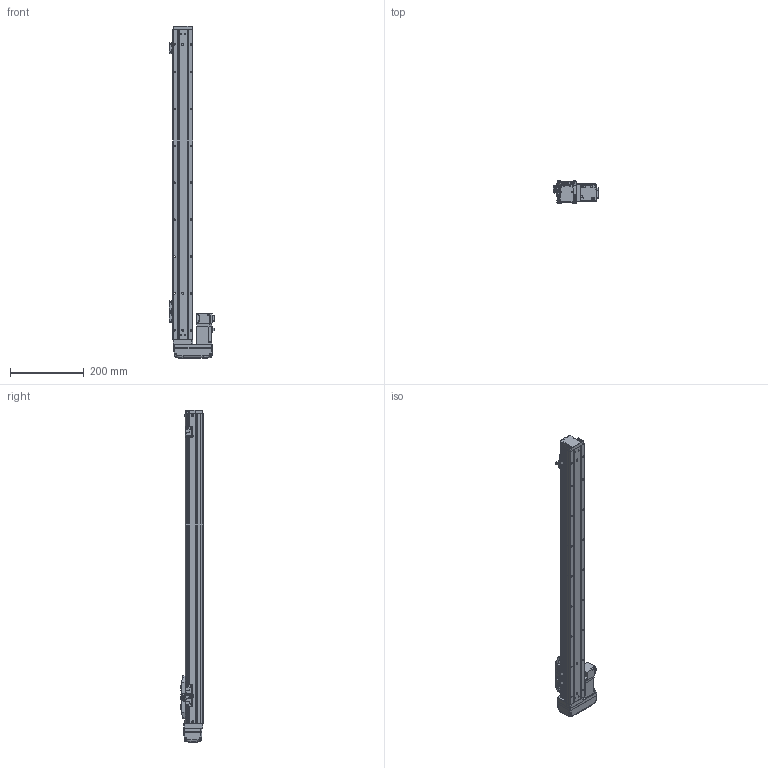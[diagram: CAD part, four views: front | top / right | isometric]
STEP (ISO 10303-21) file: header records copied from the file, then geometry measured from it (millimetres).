
FILE_DESCRIPTION (( 'STEP AP203' ), '1' );
FILE_NAME ('GTH5-700-BR-M10-C4.step', '2022-09-23T00:52:01', ( '微软用户' ), ( '微软中国' ), 'SwSTEP 2.0', 'SolidWorks 2020', '' );
FILE_SCHEMA (( 'CONFIG_CONTROL_DESIGN' ));
Length unit declared in the file: millimetre
Products named in the file (19): GTH50-003; GTH50-028; GTH50-006; GTH50-013; GTH50-022-1; GTH50-004; GTH50-023; HG-KR13; GBT 70.3-M3℅6; GBT 70.1-M3℅6; GTH50-027-1_BTHA50-027-2; BTH-M3X5X6; GBT96.1-2002 3×0.8; GTH50-026; GTH50-001_700; GTH50-024; GTH5-700-BR-M10-C4; GBT 70.1-M4×16; GBT 70.1-M2.5×6
Assembly tree (57 placements, depth 2):
  GTH5-700-BR-M10-C4
    GTH50-006
    GTH50-004
    GBT 70.3-M3℅6  x4
    BTH-M3X5X6  x8
    GTH50-001_700
    GBT 70.1-M4×16  x8
    GTH50-003
    GTH50-013
    GTH50-023  x3
    GBT 70.1-M3℅6  x12
    GBT96.1-2002 3×0.8  x6
    GTH50-024  x3
    GBT 70.1-M2.5×6  x2
    GTH50-028  x2
    GTH50-022-1
    HG-KR13
    GTH50-027-1_BTHA50-027-2
    GTH50-026
Bounding box: 123.6 x 60 x 900 mm (x, y, z)
Volume: 2021475.1 mm3; surface area: 328897.4 mm2
Topology: 59 solids, 59 shells, 2164 faces, 5028 edges, 3084 vertices
Faces by surface type: plane 1142, cylinder 593, cone 219, torus 162, bspline 40, sphere 8
Entity records: 40308 total; most frequent: CARTESIAN_POINT 7971, DIRECTION 6213, ORIENTED_EDGE 5970, EDGE_CURVE 2985, AXIS2_PLACEMENT_3D 2164, VERTEX_POINT 1886, VECTOR 1885, LINE 1885
